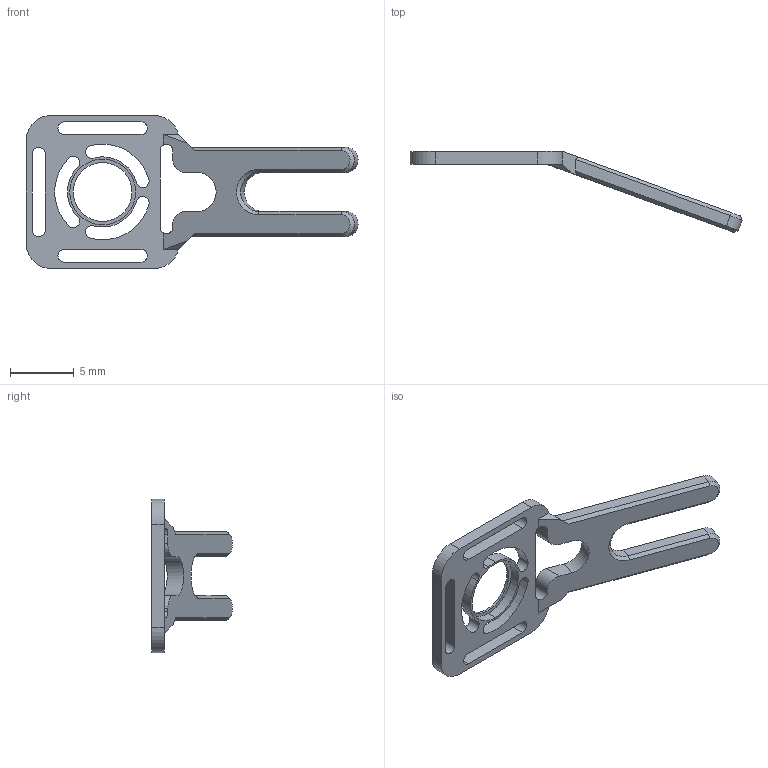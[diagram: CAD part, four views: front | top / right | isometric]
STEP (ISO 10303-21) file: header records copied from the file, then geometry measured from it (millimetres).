
FILE_DESCRIPTION (( 'STEP AP203' ), '1' );
FILE_NAME ('HeadBar_MEC_5mm - V2.STEP', '2021-11-11T15:16:46', ( '' ), ( '' ), 'SwSTEP 2.0', 'SolidWorks 2020', '' );
FILE_SCHEMA (( 'CONFIG_CONTROL_DESIGN' ));
Length unit declared in the file: millimetre
Products named in the file (1): HeadBar_MEC_5mm - V2
Bounding box: 26 x 6.33 x 12 mm (x, y, z)
Volume: 162.7 mm3; surface area: 507.6 mm2
Topology: 1 solids, 1 shells, 86 faces, 240 edges, 155 vertices
Faces by surface type: cylinder 42, plane 35, cone 9
Entity records: 2885 total; most frequent: CARTESIAN_POINT 503, DIRECTION 499, ORIENTED_EDGE 480, EDGE_CURVE 240, AXIS2_PLACEMENT_3D 179, VERTEX_POINT 155, VECTOR 141, LINE 141
